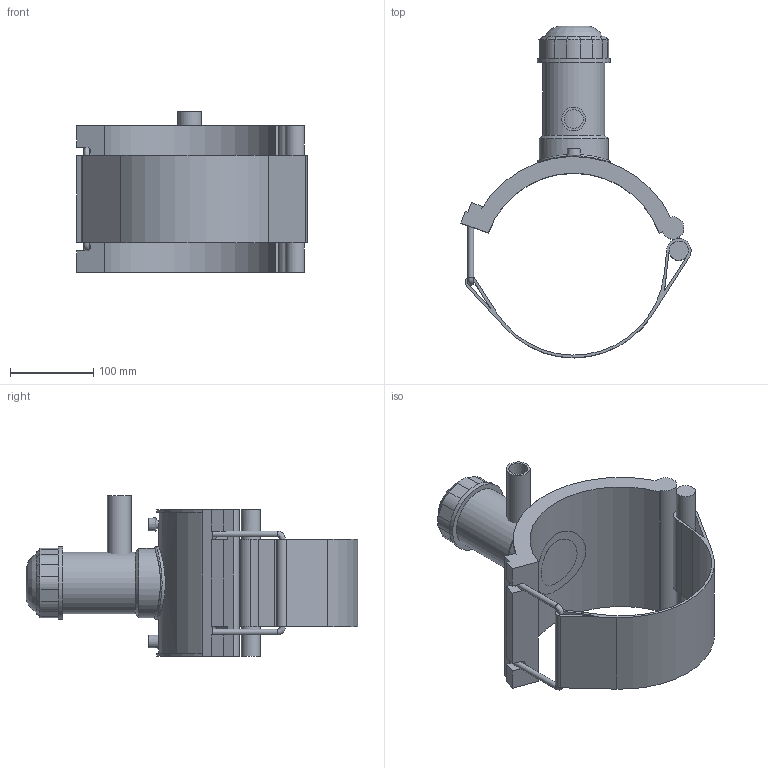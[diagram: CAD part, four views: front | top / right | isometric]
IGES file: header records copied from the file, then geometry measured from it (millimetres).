
Global section: file name: 5963BUP3080010.ipt; native system: Autodesk Inventor 2019; preprocessor: unknown; author: KIM; date: 20210830.101631; units: inch
Bounding box: 276.84 x 399.02 x 192.91 mm (x, y, z)
Volume: 1813032.1 mm3; surface area: 361473.1 mm2
Topology: 4 solids, 4 shells, 124 faces, 304 edges, 194 vertices
Faces by surface type: plane 69, cylinder 28, revolution 15, cone 11, bspline 1
Full cylindrical faces by diameter (mm): 4 x2, 6.998 x2, 23.048 x1, 28.45 x1, 74.358 x1, 83.106 x1, 87.48 x2
